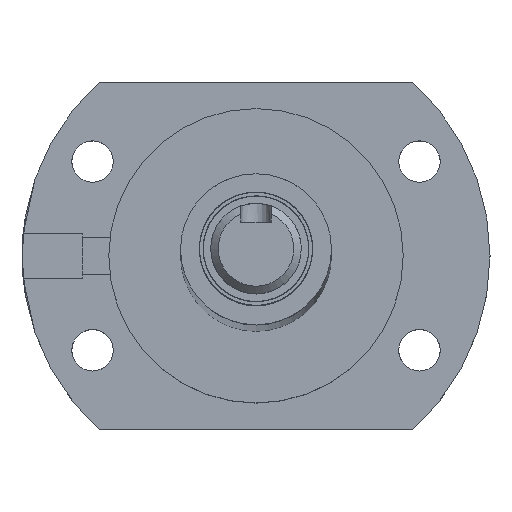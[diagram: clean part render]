
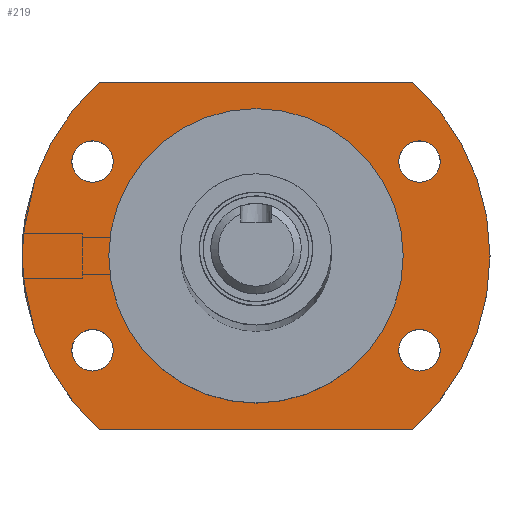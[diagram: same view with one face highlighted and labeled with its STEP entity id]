
A CAD part, top view. The second image highlights one B-rep face of the part: STEP entity #219.
In plain terms, the highlighted planar face has unit normal (0, 0, 1).
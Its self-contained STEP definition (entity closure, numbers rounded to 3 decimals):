
#144=FACE_BOUND('',#381,.T.);
#145=FACE_BOUND('',#382,.T.);
#146=FACE_BOUND('',#383,.T.);
#147=FACE_BOUND('',#384,.T.);
#148=FACE_BOUND('',#385,.T.);
#149=FACE_BOUND('',#386,.T.);
#219=ADVANCED_FACE('',(#144,#145,#146,#147,#148,#149),#274,.T.);
#274=PLANE('',#1194);
#381=EDGE_LOOP('',(#631,#632,#633,#634));
#382=EDGE_LOOP('',(#635));
#383=EDGE_LOOP('',(#636));
#384=EDGE_LOOP('',(#637));
#385=EDGE_LOOP('',(#638));
#386=EDGE_LOOP('',(#639));
#473=CIRCLE('',#1185,31.);
#475=CIRCLE('',#1188,31.);
#476=CIRCLE('',#1189,2.75);
#477=CIRCLE('',#1190,2.75);
#478=CIRCLE('',#1191,19.5);
#479=CIRCLE('',#1192,2.75);
#480=CIRCLE('',#1193,2.75);
#631=ORIENTED_EDGE('',*,*,#946,.F.);
#632=ORIENTED_EDGE('',*,*,#947,.F.);
#633=ORIENTED_EDGE('',*,*,#948,.T.);
#634=ORIENTED_EDGE('',*,*,#942,.F.);
#635=ORIENTED_EDGE('',*,*,#949,.T.);
#636=ORIENTED_EDGE('',*,*,#950,.T.);
#637=ORIENTED_EDGE('',*,*,#951,.T.);
#638=ORIENTED_EDGE('',*,*,#952,.T.);
#639=ORIENTED_EDGE('',*,*,#953,.T.);
#827=VERTEX_POINT('',#4756);
#829=VERTEX_POINT('',#4759);
#832=VERTEX_POINT('',#4824);
#833=VERTEX_POINT('',#4826);
#834=VERTEX_POINT('',#4829);
#835=VERTEX_POINT('',#4831);
#836=VERTEX_POINT('',#4833);
#837=VERTEX_POINT('',#4835);
#838=VERTEX_POINT('',#4837);
#942=EDGE_CURVE('',#827,#829,#473,.T.);
#946=EDGE_CURVE('',#832,#827,#1035,.T.);
#947=EDGE_CURVE('',#833,#832,#475,.T.);
#948=EDGE_CURVE('',#833,#829,#1036,.T.);
#949=EDGE_CURVE('',#834,#834,#476,.T.);
#950=EDGE_CURVE('',#835,#835,#477,.T.);
#951=EDGE_CURVE('',#836,#836,#478,.T.);
#952=EDGE_CURVE('',#837,#837,#479,.T.);
#953=EDGE_CURVE('',#838,#838,#480,.T.);
#1035=LINE('',#4823,#1095);
#1036=LINE('',#4827,#1096);
#1095=VECTOR('',#1410,1.);
#1096=VECTOR('',#1413,1.);
#1185=AXIS2_PLACEMENT_3D('',#4758,#1403,#1404);
#1188=AXIS2_PLACEMENT_3D('',#4825,#1411,#1412);
#1189=AXIS2_PLACEMENT_3D('',#4828,#1414,#1415);
#1190=AXIS2_PLACEMENT_3D('',#4830,#1416,#1417);
#1191=AXIS2_PLACEMENT_3D('',#4832,#1418,#1419);
#1192=AXIS2_PLACEMENT_3D('',#4834,#1420,#1421);
#1193=AXIS2_PLACEMENT_3D('',#4836,#1422,#1423);
#1194=AXIS2_PLACEMENT_3D('',#4838,#1424,#1425);
#1403=DIRECTION('',(0.,0.,-1.));
#1404=DIRECTION('',(1.,0.,0.));
#1410=DIRECTION('',(-1.,0.,0.));
#1411=DIRECTION('',(0.,0.,-1.));
#1412=DIRECTION('',(1.,0.,0.));
#1413=DIRECTION('',(-1.,0.,0.));
#1414=DIRECTION('',(0.,0.,-1.));
#1415=DIRECTION('',(0.866,0.5,0.));
#1416=DIRECTION('',(0.,0.,-1.));
#1417=DIRECTION('',(-0.866,0.5,0.));
#1418=DIRECTION('',(0.,0.,-1.));
#1419=DIRECTION('',(1.,0.,0.));
#1420=DIRECTION('',(0.,0.,-1.));
#1421=DIRECTION('',(0.866,-0.5,0.));
#1422=DIRECTION('',(0.,0.,-1.));
#1423=DIRECTION('',(-0.866,-0.5,0.));
#1424=DIRECTION('',(0.,0.,1.));
#1425=DIRECTION('',(1.,0.,0.));
#4756=CARTESIAN_POINT('',(-20.785,-23.,44.2));
#4758=CARTESIAN_POINT('',(0.,0.,44.2));
#4759=CARTESIAN_POINT('',(-20.785,23.,44.2));
#4823=CARTESIAN_POINT('',(0.,-23.,44.2));
#4824=CARTESIAN_POINT('',(20.785,-23.,44.2));
#4825=CARTESIAN_POINT('',(0.,0.,44.2));
#4826=CARTESIAN_POINT('',(20.785,23.,44.2));
#4827=CARTESIAN_POINT('',(0.,23.,44.2));
#4828=CARTESIAN_POINT('',(-21.651,-12.5,44.2));
#4829=CARTESIAN_POINT('',(-19.269,-11.125,44.2));
#4830=CARTESIAN_POINT('',(21.651,-12.5,44.2));
#4831=CARTESIAN_POINT('',(19.269,-11.125,44.2));
#4832=CARTESIAN_POINT('',(0.,0.,44.2));
#4833=CARTESIAN_POINT('',(19.5,0.,44.2));
#4834=CARTESIAN_POINT('',(-21.651,12.5,44.2));
#4835=CARTESIAN_POINT('',(-19.269,11.125,44.2));
#4836=CARTESIAN_POINT('',(21.651,12.5,44.2));
#4837=CARTESIAN_POINT('',(19.269,11.125,44.2));
#4838=CARTESIAN_POINT('',(0.,0.,44.2));
